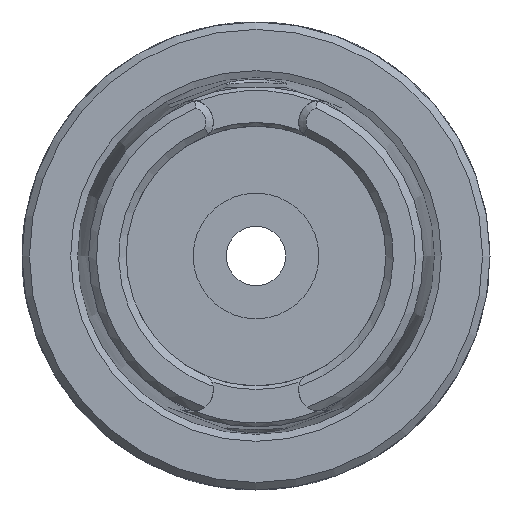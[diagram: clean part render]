
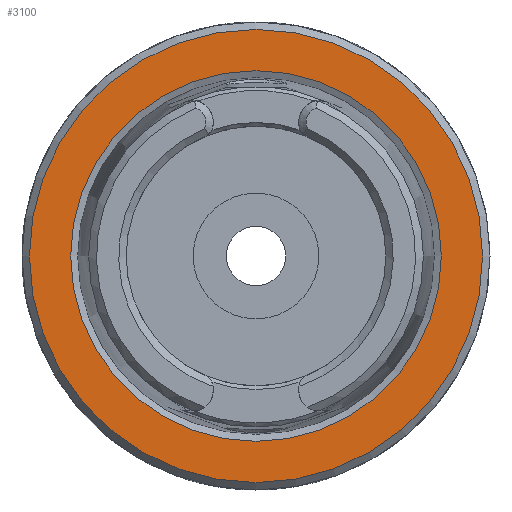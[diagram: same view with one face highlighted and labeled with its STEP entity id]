
A CAD part, left-side view. The second image highlights one B-rep face of the part: STEP entity #3100.
In plain terms, the highlighted planar face has unit normal (-1, 0, 0).
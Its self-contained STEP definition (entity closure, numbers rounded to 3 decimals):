
#142=PLANE('',#3406);
#300=FACE_BOUND('',#1069,.T.);
#890=FACE_OUTER_BOUND('',#1068,.T.);
#1068=EDGE_LOOP('',(#2708));
#1069=EDGE_LOOP('',(#2709));
#1218=CIRCLE('',#3405,30.5);
#1219=CIRCLE('',#3407,24.95);
#1490=VERTEX_POINT('',#6739);
#1491=VERTEX_POINT('',#6743);
#1912=EDGE_CURVE('',#1490,#1490,#1218,.T.);
#1913=EDGE_CURVE('',#1491,#1491,#1219,.T.);
#2708=ORIENTED_EDGE('',*,*,#1912,.F.);
#2709=ORIENTED_EDGE('',*,*,#1913,.T.);
#3100=ADVANCED_FACE('',(#890,#300),#142,.T.);
#3405=AXIS2_PLACEMENT_3D('',#6741,#3949,#3950);
#3406=AXIS2_PLACEMENT_3D('',#6742,#3951,#3952);
#3407=AXIS2_PLACEMENT_3D('',#6744,#3953,#3954);
#3949=DIRECTION('center_axis',(1.,0.,0.));
#3950=DIRECTION('ref_axis',(0.,-1.,0.));
#3951=DIRECTION('center_axis',(-1.,0.,0.));
#3952=DIRECTION('ref_axis',(0.,0.,1.));
#3953=DIRECTION('center_axis',(1.,0.,0.));
#3954=DIRECTION('ref_axis',(0.,0.,-1.));
#6739=CARTESIAN_POINT('',(-29.,30.5,0.));
#6741=CARTESIAN_POINT('Origin',(-29.,0.,0.));
#6742=CARTESIAN_POINT('Origin',(-29.,31.5,0.));
#6743=CARTESIAN_POINT('',(-29.,-24.95,0.));
#6744=CARTESIAN_POINT('Origin',(-29.,0.,0.));
